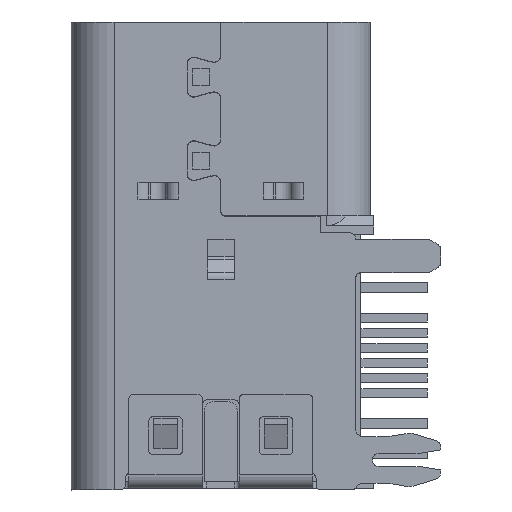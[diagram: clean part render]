
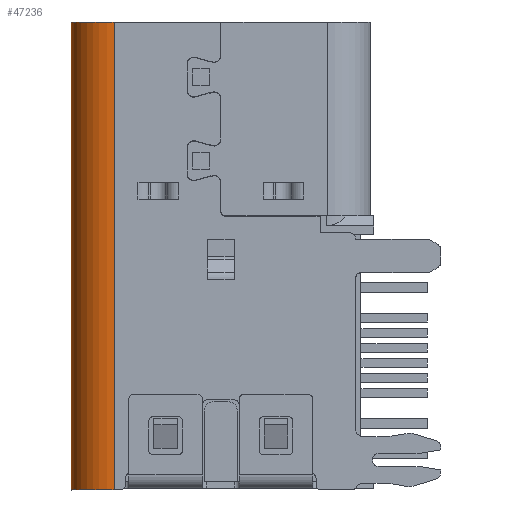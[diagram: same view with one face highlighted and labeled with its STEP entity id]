
A CAD part, front view. The second image highlights one B-rep face of the part: STEP entity #47236.
In plain terms, the highlighted cylindrical face has radius 1.28 mm (diameter 2.56 mm), a partial arc.
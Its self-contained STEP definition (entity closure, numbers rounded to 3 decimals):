
#2463 = CARTESIAN_POINT ( 'NONE',  ( 1.852, -0.3, -2.54 ) ) ;
#2814 = ORIENTED_EDGE ( 'NONE', *, *, #12999, .T. ) ;
#7335 = DIRECTION ( 'NONE',  ( 0., 0., 1. ) ) ;
#7915 = CARTESIAN_POINT ( 'NONE',  ( 3.132, -1.58, -16.54 ) ) ;
#8395 = CARTESIAN_POINT ( 'NONE',  ( 1.852, -0.3, -16.54 ) ) ;
#8767 = DIRECTION ( 'NONE',  ( 0., 0., 1. ) ) ;
#9051 = VERTEX_POINT ( 'NONE', #7915 ) ;
#9514 = VERTEX_POINT ( 'NONE', #8395 ) ;
#9873 = ORIENTED_EDGE ( 'NONE', *, *, #26919, .F. ) ;
#10148 = AXIS2_PLACEMENT_3D ( 'NONE', #49441, #7335, #24058 ) ;
#11786 = LINE ( 'NONE', #50246, #26193 ) ;
#12999 = EDGE_CURVE ( 'NONE', #23937, #9514, #11786, .T. ) ;
#13492 = CARTESIAN_POINT ( 'NONE',  ( 3.132, -0.3, -2.54 ) ) ;
#17374 = CARTESIAN_POINT ( 'NONE',  ( 3.132, -1.58, -2.54 ) ) ;
#22212 = DIRECTION ( 'NONE',  ( 0., 0., 1. ) ) ;
#23937 = VERTEX_POINT ( 'NONE', #2463 ) ;
#24058 = DIRECTION ( 'NONE',  ( -1., 0.031, 0. ) ) ;
#24950 = DIRECTION ( 'NONE',  ( 0., 0., -1. ) ) ;
#26193 = VECTOR ( 'NONE', #37433, 1000. ) ;
#26919 = EDGE_CURVE ( 'NONE', #23937, #44714, #33557, .T. ) ;
#26951 = CARTESIAN_POINT ( 'NONE',  ( 3.132, -0.3, -16.54 ) ) ;
#28467 = VECTOR ( 'NONE', #24950, 1000. ) ;
#29145 = CARTESIAN_POINT ( 'NONE',  ( 3.132, -1.58, -16.82 ) ) ;
#29970 = AXIS2_PLACEMENT_3D ( 'NONE', #13492, #8767, #38573 ) ;
#33557 = CIRCLE ( 'NONE', #29970, 1.28 ) ;
#33880 = ORIENTED_EDGE ( 'NONE', *, *, #40445, .T. ) ;
#34555 = AXIS2_PLACEMENT_3D ( 'NONE', #26951, #22212, #35596 ) ;
#35596 = DIRECTION ( 'NONE',  ( 1., 0., 0. ) ) ;
#36617 = CYLINDRICAL_SURFACE ( 'NONE', #10148, 1.28 ) ;
#37433 = DIRECTION ( 'NONE',  ( 0., 0., -1. ) ) ;
#38573 = DIRECTION ( 'NONE',  ( 1., 0., 0. ) ) ;
#40445 = EDGE_CURVE ( 'NONE', #9514, #9051, #51477, .T. ) ;
#44714 = VERTEX_POINT ( 'NONE', #17374 ) ;
#47236 = ADVANCED_FACE ( 'NONE', ( #50539 ), #36617, .T. ) ;
#49441 = CARTESIAN_POINT ( 'NONE',  ( 3.132, -0.3, -9.54 ) ) ;
#49974 = ORIENTED_EDGE ( 'NONE', *, *, #51444, .F. ) ;
#50246 = CARTESIAN_POINT ( 'NONE',  ( 1.852, -0.3, -9.54 ) ) ;
#50539 = FACE_OUTER_BOUND ( 'NONE', #51754, .T. ) ;
#51444 = EDGE_CURVE ( 'NONE', #44714, #9051, #54232, .T. ) ;
#51477 = CIRCLE ( 'NONE', #34555, 1.28 ) ;
#51754 = EDGE_LOOP ( 'NONE', ( #2814, #33880, #49974, #9873 ) ) ;
#54232 = LINE ( 'NONE', #29145, #28467 ) ;
